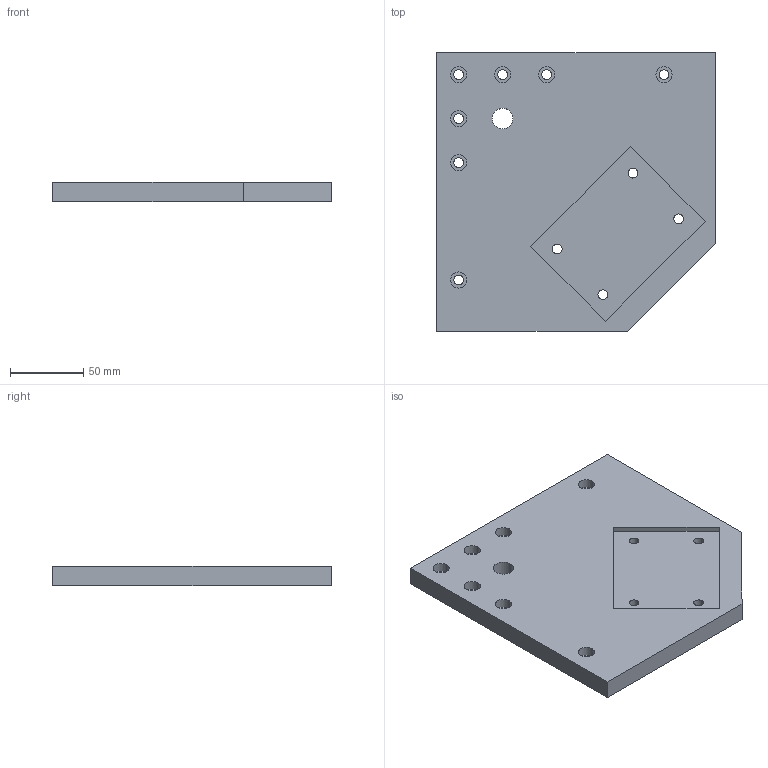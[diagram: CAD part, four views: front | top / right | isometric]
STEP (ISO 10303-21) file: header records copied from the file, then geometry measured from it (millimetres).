
FILE_DESCRIPTION (( 'STEP AP203' ), '1' );
FILE_NAME ('PF06190N.STEP', '2024-02-19T03:15:05', ( '' ), ( '' ), 'SwSTEP 2.0', 'SolidWorks 2022', '' );
FILE_SCHEMA (( 'CONFIG_CONTROL_DESIGN' ));
Length unit declared in the file: millimetre
Products named in the file (1): PF06190N
Bounding box: 190 x 190 x 13 mm (x, y, z)
Volume: 415893.5 mm3; surface area: 81881 mm2
Topology: 1 solids, 1 shells, 57 faces, 141 edges, 94 vertices
Faces by surface type: cylinder 38, plane 19
Entity records: 1856 total; most frequent: DIRECTION 333, CARTESIAN_POINT 293, ORIENTED_EDGE 282, EDGE_CURVE 141, AXIS2_PLACEMENT_3D 134, VERTEX_POINT 94, EDGE_LOOP 89, CIRCLE 76
